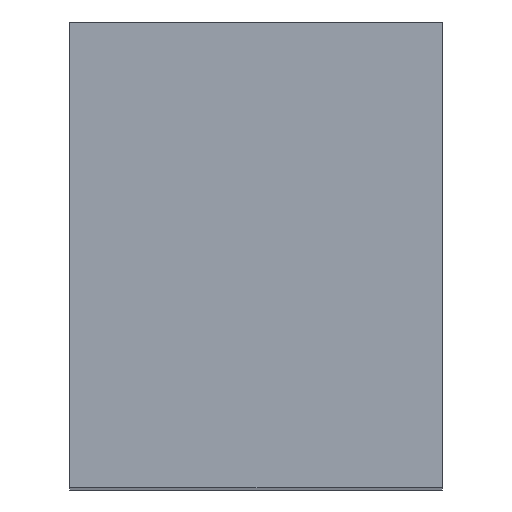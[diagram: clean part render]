
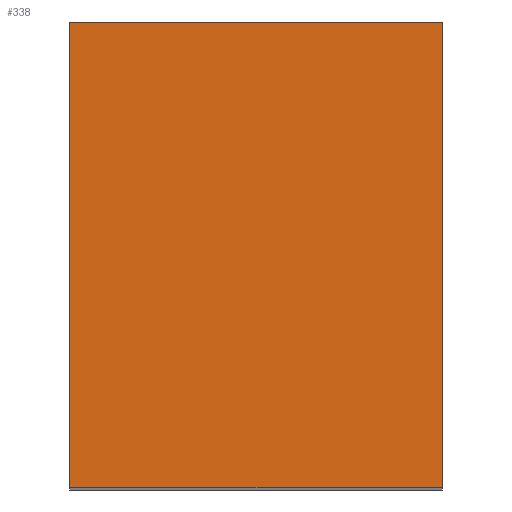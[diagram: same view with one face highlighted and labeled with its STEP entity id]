
A CAD part, top view. The second image highlights one B-rep face of the part: STEP entity #338.
In plain terms, the highlighted planar face has unit normal (0, 0, 1).
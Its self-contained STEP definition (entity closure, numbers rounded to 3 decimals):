
#24 = VERTEX_POINT('',#25);
#25 = CARTESIAN_POINT('',(116.,-87.913,173.));
#32 = PLANE('',#33);
#33 = AXIS2_PLACEMENT_3D('',#34,#35,#36);
#34 = CARTESIAN_POINT('',(116.,-87.913,145.));
#35 = DIRECTION('',(1.,0.,-0.));
#36 = DIRECTION('',(0.,0.,1.));
#44 = PLANE('',#45);
#45 = AXIS2_PLACEMENT_3D('',#46,#47,#48);
#46 = CARTESIAN_POINT('',(116.,-87.913,145.));
#47 = DIRECTION('',(-0.,1.,0.));
#48 = DIRECTION('',(0.,0.,1.));
#85 = VERTEX_POINT('',#86);
#86 = CARTESIAN_POINT('',(116.,-77.913,173.));
#100 = PLANE('',#101);
#101 = AXIS2_PLACEMENT_3D('',#102,#103,#104);
#102 = CARTESIAN_POINT('',(116.,-77.913,145.));
#103 = DIRECTION('',(-0.,1.,0.));
#104 = DIRECTION('',(0.,0.,1.));
#112 = EDGE_CURVE('',#24,#85,#113,.T.);
#113 = SURFACE_CURVE('',#114,(#118,#125),.PCURVE_S1.);
#114 = LINE('',#115,#116);
#115 = CARTESIAN_POINT('',(116.,-87.913,173.));
#116 = VECTOR('',#117,1.);
#117 = DIRECTION('',(-0.,1.,0.));
#118 = PCURVE('',#32,#119);
#119 = DEFINITIONAL_REPRESENTATION('',(#120),#124);
#120 = LINE('',#121,#122);
#121 = CARTESIAN_POINT('',(28.,0.));
#122 = VECTOR('',#123,1.);
#123 = DIRECTION('',(0.,-1.));
#124 = ( GEOMETRIC_REPRESENTATION_CONTEXT(2) 
PARAMETRIC_REPRESENTATION_CONTEXT() REPRESENTATION_CONTEXT('2D SPACE',''
  ) );
#125 = PCURVE('',#126,#131);
#126 = PLANE('',#127);
#127 = AXIS2_PLACEMENT_3D('',#128,#129,#130);
#128 = CARTESIAN_POINT('',(116.,-87.913,173.));
#129 = DIRECTION('',(0.,0.,1.));
#130 = DIRECTION('',(1.,0.,-0.));
#131 = DEFINITIONAL_REPRESENTATION('',(#132),#136);
#132 = LINE('',#133,#134);
#133 = CARTESIAN_POINT('',(0.,0.));
#134 = VECTOR('',#135,1.);
#135 = DIRECTION('',(0.,1.));
#136 = ( GEOMETRIC_REPRESENTATION_CONTEXT(2) 
PARAMETRIC_REPRESENTATION_CONTEXT() REPRESENTATION_CONTEXT('2D SPACE',''
  ) );
#144 = VERTEX_POINT('',#145);
#145 = CARTESIAN_POINT('',(124.,-87.913,173.));
#152 = PLANE('',#153);
#153 = AXIS2_PLACEMENT_3D('',#154,#155,#156);
#154 = CARTESIAN_POINT('',(124.,-87.913,145.));
#155 = DIRECTION('',(1.,0.,-0.));
#156 = DIRECTION('',(0.,0.,1.));
#195 = VERTEX_POINT('',#196);
#196 = CARTESIAN_POINT('',(124.,-77.913,173.));
#217 = EDGE_CURVE('',#144,#195,#218,.T.);
#218 = SURFACE_CURVE('',#219,(#223,#230),.PCURVE_S1.);
#219 = LINE('',#220,#221);
#220 = CARTESIAN_POINT('',(124.,-87.913,173.));
#221 = VECTOR('',#222,1.);
#222 = DIRECTION('',(-0.,1.,0.));
#223 = PCURVE('',#152,#224);
#224 = DEFINITIONAL_REPRESENTATION('',(#225),#229);
#225 = LINE('',#226,#227);
#226 = CARTESIAN_POINT('',(28.,0.));
#227 = VECTOR('',#228,1.);
#228 = DIRECTION('',(0.,-1.));
#229 = ( GEOMETRIC_REPRESENTATION_CONTEXT(2) 
PARAMETRIC_REPRESENTATION_CONTEXT() REPRESENTATION_CONTEXT('2D SPACE',''
  ) );
#230 = PCURVE('',#126,#231);
#231 = DEFINITIONAL_REPRESENTATION('',(#232),#236);
#232 = LINE('',#233,#234);
#233 = CARTESIAN_POINT('',(8.,0.));
#234 = VECTOR('',#235,1.);
#235 = DIRECTION('',(0.,1.));
#236 = ( GEOMETRIC_REPRESENTATION_CONTEXT(2) 
PARAMETRIC_REPRESENTATION_CONTEXT() REPRESENTATION_CONTEXT('2D SPACE',''
  ) );
#263 = EDGE_CURVE('',#24,#144,#264,.T.);
#264 = SURFACE_CURVE('',#265,(#269,#276),.PCURVE_S1.);
#265 = LINE('',#266,#267);
#266 = CARTESIAN_POINT('',(116.,-87.913,173.));
#267 = VECTOR('',#268,1.);
#268 = DIRECTION('',(1.,0.,-0.));
#269 = PCURVE('',#44,#270);
#270 = DEFINITIONAL_REPRESENTATION('',(#271),#275);
#271 = LINE('',#272,#273);
#272 = CARTESIAN_POINT('',(28.,0.));
#273 = VECTOR('',#274,1.);
#274 = DIRECTION('',(0.,1.));
#275 = ( GEOMETRIC_REPRESENTATION_CONTEXT(2) 
PARAMETRIC_REPRESENTATION_CONTEXT() REPRESENTATION_CONTEXT('2D SPACE',''
  ) );
#276 = PCURVE('',#126,#277);
#277 = DEFINITIONAL_REPRESENTATION('',(#278),#282);
#278 = LINE('',#279,#280);
#279 = CARTESIAN_POINT('',(0.,0.));
#280 = VECTOR('',#281,1.);
#281 = DIRECTION('',(1.,0.));
#282 = ( GEOMETRIC_REPRESENTATION_CONTEXT(2) 
PARAMETRIC_REPRESENTATION_CONTEXT() REPRESENTATION_CONTEXT('2D SPACE',''
  ) );
#310 = EDGE_CURVE('',#85,#195,#311,.T.);
#311 = SURFACE_CURVE('',#312,(#316,#323),.PCURVE_S1.);
#312 = LINE('',#313,#314);
#313 = CARTESIAN_POINT('',(116.,-77.913,173.));
#314 = VECTOR('',#315,1.);
#315 = DIRECTION('',(1.,0.,-0.));
#316 = PCURVE('',#100,#317);
#317 = DEFINITIONAL_REPRESENTATION('',(#318),#322);
#318 = LINE('',#319,#320);
#319 = CARTESIAN_POINT('',(28.,0.));
#320 = VECTOR('',#321,1.);
#321 = DIRECTION('',(0.,1.));
#322 = ( GEOMETRIC_REPRESENTATION_CONTEXT(2) 
PARAMETRIC_REPRESENTATION_CONTEXT() REPRESENTATION_CONTEXT('2D SPACE',''
  ) );
#323 = PCURVE('',#126,#324);
#324 = DEFINITIONAL_REPRESENTATION('',(#325),#329);
#325 = LINE('',#326,#327);
#326 = CARTESIAN_POINT('',(0.,10.));
#327 = VECTOR('',#328,1.);
#328 = DIRECTION('',(1.,0.));
#329 = ( GEOMETRIC_REPRESENTATION_CONTEXT(2) 
PARAMETRIC_REPRESENTATION_CONTEXT() REPRESENTATION_CONTEXT('2D SPACE',''
  ) );
#338 = ADVANCED_FACE('',(#339),#126,.T.);
#339 = FACE_BOUND('',#340,.T.);
#340 = EDGE_LOOP('',(#341,#342,#343,#344));
#341 = ORIENTED_EDGE('',*,*,#112,.F.);
#342 = ORIENTED_EDGE('',*,*,#263,.T.);
#343 = ORIENTED_EDGE('',*,*,#217,.T.);
#344 = ORIENTED_EDGE('',*,*,#310,.F.);
